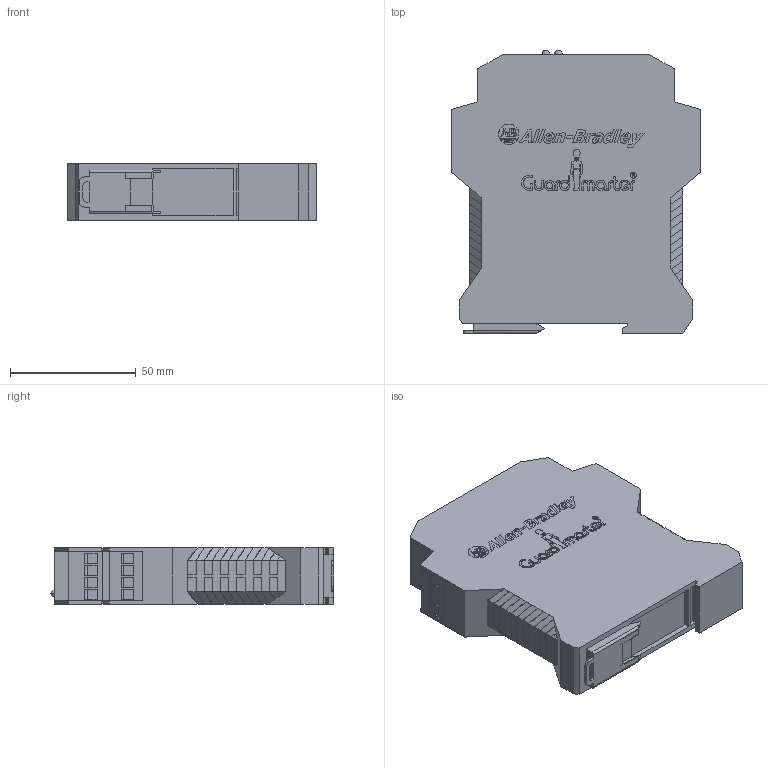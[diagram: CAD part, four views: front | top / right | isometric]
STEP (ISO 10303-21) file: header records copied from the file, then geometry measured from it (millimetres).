
FILE_DESCRIPTION((''),'2;1');
FILE_NAME('MSR132E','2007-08-13T',('jcarval'),('Rockwell Automation'),'PRO/ENGINEER BY PARAMETRIC TECHNOLOGY CORPORATION, 2005110','PRO/ENGINEER BY PARAMETRIC TECHNOLOGY CORPORATION, 2005110','');
FILE_SCHEMA(('CONFIG_CONTROL_DESIGN'));
Products named in the file (1): MSR132E
Bounding box: 99.1 x 112.73 x 22.65 mm (x, y, z)
Volume: 211137.8 mm3; surface area: 30096.1 mm2
Topology: 1 solids, 1 shells, 2009 faces, 5218 edges, 3408 vertices
Faces by surface type: plane 1432, bspline 459, cylinder 114, sphere 4
Entity records: 79722 total; most frequent: CARTESIAN_POINT 33969, ORIENTED_EDGE 10428, DIRECTION 7620, EDGE_CURVE 5214, VECTOR 4060, LINE 4060, VERTEX_POINT 3408, EDGE_LOOP 2212
